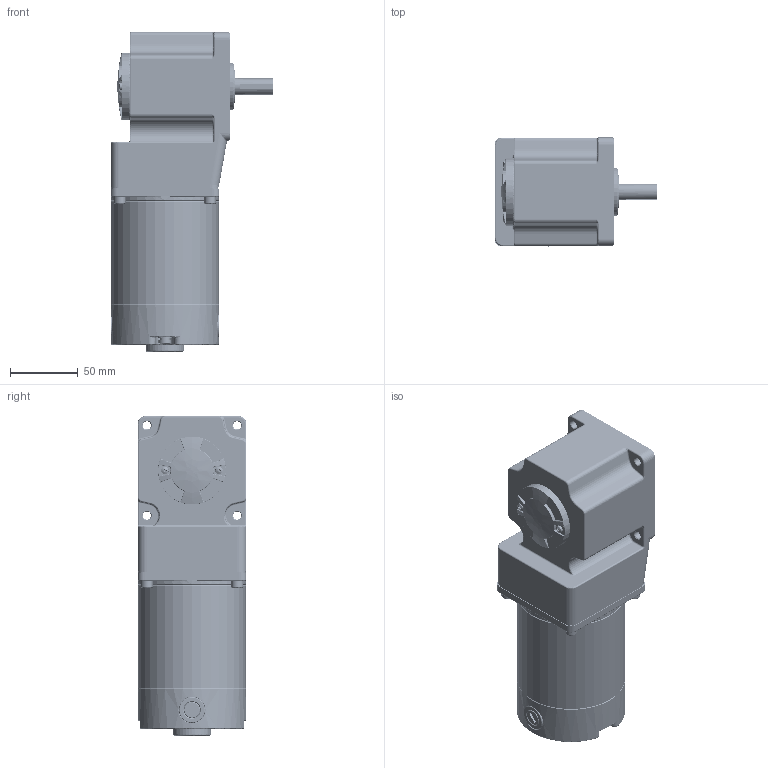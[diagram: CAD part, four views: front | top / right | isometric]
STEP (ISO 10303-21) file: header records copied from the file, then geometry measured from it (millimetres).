
FILE_DESCRIPTION (( 'STEP AP203' ), '1' );
FILE_NAME ('80-76»ú¿ÇRT.STEP', '2020-04-15T05:20:19', ( '' ), ( '' ), 'SwSTEP 2.0', 'SolidWorks 2018', '' );
FILE_SCHEMA (( 'CONFIG_CONTROL_DESIGN' ));
Length unit declared in the file: millimetre
Products named in the file (26): 4RK25GN-CM-4GN3-180RC_ASM_ASM; JIKEI-80_1; 4IK25GN-C-4GN3-180RC_ASM_1_ASM_ASM; PRT0064; PRT0069; ZHENGJI_ASM_ASM_ASM; HOUGAI-80-1_1_1; PRT0060; QIANGAI-80_1_1_1; PRT0061; PRT0065; PRT0066; 80-76儂褲RT; 4IK25GN-C-4GN3-180RC_ASM_ASM_ASM; PRT0062; 4RK25GN-CM-4GN3-180RC_ASM_1_ASM; PENGDIAN_1_1; PRT0068; PRT0063; 80-25w_1_1_1; ZHIJIAOZHOU; 4RRRRRT; ASM0005_ASM; LUDING_1_1; PRT0067; TANDIAN_1_1
Assembly tree (32 placements, depth 9):
  80-76儂褲RT
    80-25w_1_1_1
      LUDING_1_1  x2
      TANDIAN_1_1  x2
      JIKEI-80_1
      QIANGAI-80_1_1_1
      HOUGAI-80-1_1_1
      PENGDIAN_1_1  x2
    4RRRRRT
      4RK25GN-CM-4GN3-180RC_ASM_ASM
        4RK25GN-CM-4GN3-180RC_ASM_1_ASM
          4IK25GN-C-4GN3-180RC_ASM_ASM_ASM
            4IK25GN-C-4GN3-180RC_ASM_1_ASM_ASM
              ZHENGJI_ASM_ASM_ASM
                ASM0005_ASM
                  PRT0060
                  PRT0061
                  PRT0062
                  PRT0063
              PRT0064  x2
              PRT0065
              PRT0066
              PRT0067
              PRT0068
              PRT0069  x4
      ZHIJIAOZHOU
Bounding box: 120 x 80 x 235.5 mm (x, y, z)
Volume: 514347 mm3; surface area: 215030.4 mm2
Topology: 28 solids, 28 shells, 4063 faces, 9311 edges, 5239 vertices
Faces by surface type: cone 1526, cylinder 1240, bspline 756, plane 530, torus 11
Entity records: 130488 total; most frequent: CARTESIAN_POINT 63190, ORIENTED_EDGE 14110, DIRECTION 12698, EDGE_CURVE 7055, AXIS2_PLACEMENT_3D 5119, VERTEX_POINT 4085, EDGE_LOOP 3216, ADVANCED_FACE 3084
